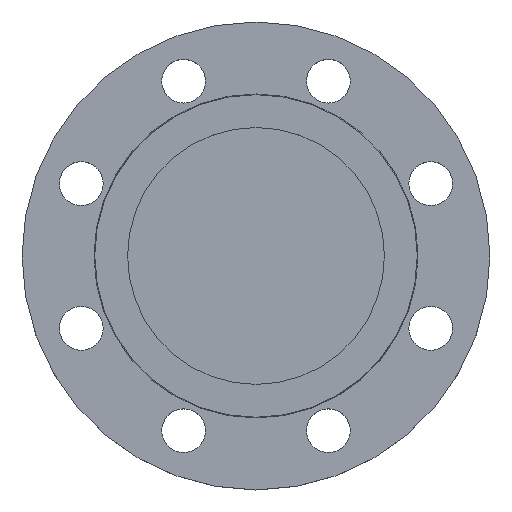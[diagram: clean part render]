
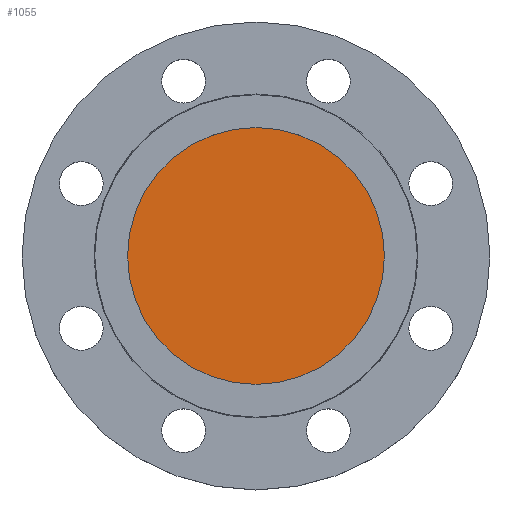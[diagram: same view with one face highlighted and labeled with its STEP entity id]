
A CAD part, top view. The second image highlights one B-rep face of the part: STEP entity #1055.
In plain terms, the highlighted planar face has unit normal (0, 0, 1).
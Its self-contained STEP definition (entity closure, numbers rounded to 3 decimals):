
#84 = DIRECTION ( 'NONE',  ( 1., 0., 0. ) ) ;
#87 = DIRECTION ( 'NONE',  ( 0., 0., -1. ) ) ;
#109 = AXIS2_PLACEMENT_3D ( 'NONE', #336, #687, #1026 ) ;
#176 = PLANE ( 'NONE',  #911 ) ;
#295 = AXIS2_PLACEMENT_3D ( 'NONE', #875, #87, #445 ) ;
#336 = CARTESIAN_POINT ( 'NONE',  ( 0., 0., -5. ) ) ;
#385 = CARTESIAN_POINT ( 'NONE',  ( 64.5, 0., -5. ) ) ;
#393 = VERTEX_POINT ( 'NONE', #385 ) ;
#431 = CARTESIAN_POINT ( 'NONE',  ( -64.5, 0., -5. ) ) ;
#445 = DIRECTION ( 'NONE',  ( -1., 0., 0. ) ) ;
#523 = CARTESIAN_POINT ( 'NONE',  ( 0., 0., -5. ) ) ;
#582 = EDGE_CURVE ( 'NONE', #1025, #393, #943, .T. ) ;
#617 = EDGE_LOOP ( 'NONE', ( #700, #733 ) ) ;
#672 = EDGE_CURVE ( 'NONE', #393, #1025, #1123, .T. ) ;
#687 = DIRECTION ( 'NONE',  ( 0., 0., -1. ) ) ;
#700 = ORIENTED_EDGE ( 'NONE', *, *, #582, .F. ) ;
#733 = ORIENTED_EDGE ( 'NONE', *, *, #672, .F. ) ;
#870 = DIRECTION ( 'NONE',  ( 0., 0., 1. ) ) ;
#875 = CARTESIAN_POINT ( 'NONE',  ( 0., 0., -5. ) ) ;
#911 = AXIS2_PLACEMENT_3D ( 'NONE', #523, #870, #84 ) ;
#943 = CIRCLE ( 'NONE', #109, 64.5 ) ;
#956 = FACE_OUTER_BOUND ( 'NONE', #617, .T. ) ;
#1025 = VERTEX_POINT ( 'NONE', #431 ) ;
#1026 = DIRECTION ( 'NONE',  ( -1., 0., 0. ) ) ;
#1055 = ADVANCED_FACE ( 'NONE', ( #956 ), #176, .T. ) ;
#1123 = CIRCLE ( 'NONE', #295, 64.5 ) ;
